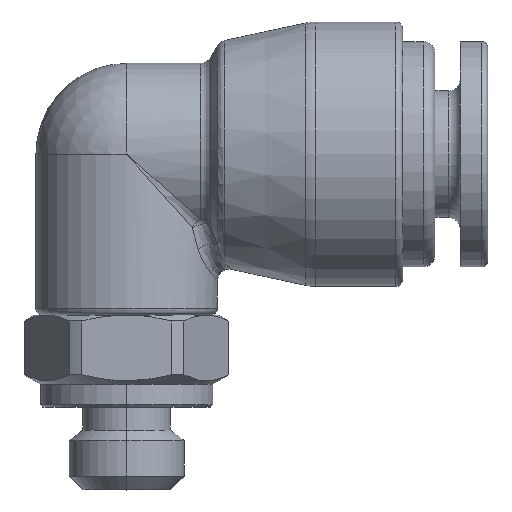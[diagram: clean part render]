
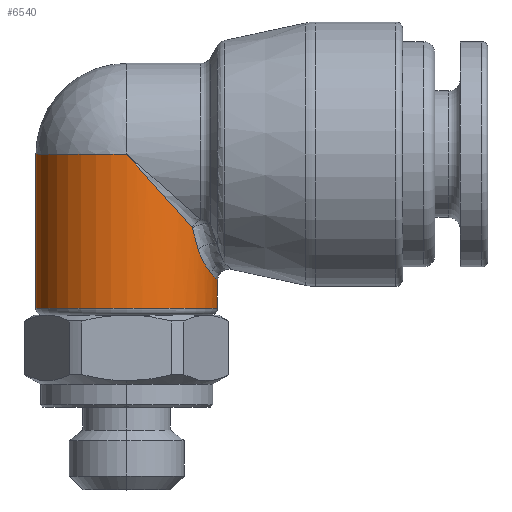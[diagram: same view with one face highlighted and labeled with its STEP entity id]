
A CAD part, top view. The second image highlights one B-rep face of the part: STEP entity #6540.
In plain terms, the highlighted cylindrical face has radius 3.95 mm (diameter 7.9 mm), a partial arc.
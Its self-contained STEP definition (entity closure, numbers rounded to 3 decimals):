
#8 = CIRCLE ( 'NONE', #5442, 3.95 ) ;
#83 = CARTESIAN_POINT ( 'NONE',  ( -3.95, 0., 0. ) ) ;
#93 = EDGE_CURVE ( 'NONE', #2738, #5914, #5784, .T. ) ;
#180 = CARTESIAN_POINT ( 'NONE',  ( 2.932, -3.524, 2.649 ) ) ;
#354 = EDGE_CURVE ( 'NONE', #6107, #2647, #833, .T. ) ;
#365 = DIRECTION ( 'NONE',  ( 0., 1., 0. ) ) ;
#457 = CARTESIAN_POINT ( 'NONE',  ( 3.944, -5.491, 0.244 ) ) ;
#539 = LINE ( 'NONE', #83, #2413 ) ;
#601 = CARTESIAN_POINT ( 'NONE',  ( 0., -6.7, 0. ) ) ;
#708 = VERTEX_POINT ( 'NONE', #6637 ) ;
#713 = EDGE_CURVE ( 'NONE', #3302, #708, #8, .T. ) ;
#766 = CARTESIAN_POINT ( 'NONE',  ( 3.111, -4.13, 2.434 ) ) ;
#833 = B_SPLINE_CURVE_WITH_KNOTS ( 'NONE', 3,
 ( #5615, #4020, #6586, #1419, #3454, #1345, #5542, #5026 ),
 .UNSPECIFIED., .F., .F.,
 ( 4, 2, 2, 4 ),
 ( 0.005, 0.005, 0.006, 0.006 ),
 .UNSPECIFIED. ) ;
#844 = ORIENTED_EDGE ( 'NONE', *, *, #354, .T. ) ;
#1018 = DIRECTION ( 'NONE',  ( 0., 1., 0. ) ) ;
#1028 = ORIENTED_EDGE ( 'NONE', *, *, #4705, .T. ) ;
#1035 = CARTESIAN_POINT ( 'NONE',  ( 3.922, -5.465, 0.488 ) ) ;
#1171 = VERTEX_POINT ( 'NONE', #6649 ) ;
#1345 = CARTESIAN_POINT ( 'NONE',  ( 3.192, -4.369, 2.329 ) ) ;
#1406 = FACE_OUTER_BOUND ( 'NONE', #4545, .T. ) ;
#1419 = CARTESIAN_POINT ( 'NONE',  ( 3.339, -4.685, 2.114 ) ) ;
#1572 = ORIENTED_EDGE ( 'NONE', *, *, #4978, .F. ) ;
#1642 = CARTESIAN_POINT ( 'NONE',  ( 2.095, -2.36, 3.522 ) ) ;
#1688 = ORIENTED_EDGE ( 'NONE', *, *, #4367, .T. ) ;
#1841 = CARTESIAN_POINT ( 'NONE',  ( 0., 0., 0. ) ) ;
#1860 =( BOUNDED_CURVE ( )  B_SPLINE_CURVE ( 3, ( #6433, #1642, #4795, #3774 ),
 .UNSPECIFIED., .F., .T. ) 
 B_SPLINE_CURVE_WITH_KNOTS ( ( 4, 4 ),
 ( 3.906, 4.712 ),
 .UNSPECIFIED. ) 
 CURVE ( )  GEOMETRIC_REPRESENTATION_ITEM ( )  RATIONAL_B_SPLINE_CURVE ( ( 1., 0.947, 0.947, 1. ) ) 
 REPRESENTATION_ITEM ( '' )  );
#2191 = DIRECTION ( 'NONE',  ( -1., 0., 0. ) ) ;
#2211 = CARTESIAN_POINT ( 'NONE',  ( -3.95, -6.7, 0. ) ) ;
#2413 = VECTOR ( 'NONE', #1018, 1000. ) ;
#2432 = ORIENTED_EDGE ( 'NONE', *, *, #3554, .T. ) ;
#2492 = CYLINDRICAL_SURFACE ( 'NONE', #5841, 3.95 ) ;
#2563 = CARTESIAN_POINT ( 'NONE',  ( 0., 0., 0. ) ) ;
#2647 = VERTEX_POINT ( 'NONE', #5194 ) ;
#2678 = CARTESIAN_POINT ( 'NONE',  ( 2.851, -3.211, 2.734 ) ) ;
#2738 = VERTEX_POINT ( 'NONE', #2211 ) ;
#2767 = ORIENTED_EDGE ( 'NONE', *, *, #4506, .T. ) ;
#2862 = CARTESIAN_POINT ( 'NONE',  ( 3.693, -5.201, 1.402 ) ) ;
#2914 = CARTESIAN_POINT ( 'NONE',  ( 0., 0., 3.95 ) ) ;
#3108 = CARTESIAN_POINT ( 'NONE',  ( 3.838, -5.369, 0.963 ) ) ;
#3133 = CARTESIAN_POINT ( 'NONE',  ( 3.905, -5.445, 0.61 ) ) ;
#3302 = VERTEX_POINT ( 'NONE', #2914 ) ;
#3435 = ORIENTED_EDGE ( 'NONE', *, *, #93, .T. ) ;
#3454 = CARTESIAN_POINT ( 'NONE',  ( 3.287, -4.584, 2.193 ) ) ;
#3554 = EDGE_CURVE ( 'NONE', #2647, #4155, #4771, .T. ) ;
#3774 = CARTESIAN_POINT ( 'NONE',  ( 0., 0., 3.95 ) ) ;
#3934 = CARTESIAN_POINT ( 'NONE',  ( 3.02, -3.83, 2.55 ) ) ;
#4020 = CARTESIAN_POINT ( 'NONE',  ( 3.604, -5.098, 1.637 ) ) ;
#4065 = CARTESIAN_POINT ( 'NONE',  ( 3.693, -5.201, 1.402 ) ) ;
#4101 = CARTESIAN_POINT ( 'NONE',  ( 3.95, -5.498, 0.122 ) ) ;
#4155 = VERTEX_POINT ( 'NONE', #2678 ) ;
#4367 = EDGE_CURVE ( 'NONE', #4155, #3302, #1860, .T. ) ;
#4482 = ORIENTED_EDGE ( 'NONE', *, *, #713, .T. ) ;
#4501 = DIRECTION ( 'NONE',  ( 0., 1., 0. ) ) ;
#4506 = EDGE_CURVE ( 'NONE', #1171, #6107, #6473, .T. ) ;
#4535 = LINE ( 'NONE', #5032, #5871 ) ;
#4545 = EDGE_LOOP ( 'NONE', ( #3435, #1028, #2767, #844, #2432, #1688, #4482, #1572 ) ) ;
#4602 = CARTESIAN_POINT ( 'NONE',  ( 3.95, -6.7, 0. ) ) ;
#4677 = DIRECTION ( 'NONE',  ( -1., 0., 0. ) ) ;
#4705 = EDGE_CURVE ( 'NONE', #5914, #1171, #4535, .T. ) ;
#4771 = B_SPLINE_CURVE_WITH_KNOTS ( 'NONE', 3,
 ( #766, #3934, #180, #6073 ),
 .UNSPECIFIED., .F., .F.,
 ( 4, 4 ),
 ( 0., 0.001 ),
 .UNSPECIFIED. ) ;
#4776 = AXIS2_PLACEMENT_3D ( 'NONE', #601, #6037, #2191 ) ;
#4795 = CARTESIAN_POINT ( 'NONE',  ( 1.091, -1.229, 3.95 ) ) ;
#4978 = EDGE_CURVE ( 'NONE', #2738, #708, #539, .T. ) ;
#5026 = CARTESIAN_POINT ( 'NONE',  ( 3.111, -4.13, 2.434 ) ) ;
#5032 = CARTESIAN_POINT ( 'NONE',  ( 3.95, 0., 0. ) ) ;
#5039 = DIRECTION ( 'NONE',  ( 0., -1., 0. ) ) ;
#5194 = CARTESIAN_POINT ( 'NONE',  ( 3.111, -4.13, 2.434 ) ) ;
#5239 = CARTESIAN_POINT ( 'NONE',  ( 3.774, -5.295, 1.188 ) ) ;
#5442 = AXIS2_PLACEMENT_3D ( 'NONE', #1841, #5039, #6600 ) ;
#5542 = CARTESIAN_POINT ( 'NONE',  ( 3.148, -4.254, 2.386 ) ) ;
#5615 = CARTESIAN_POINT ( 'NONE',  ( 3.693, -5.201, 1.402 ) ) ;
#5784 = CIRCLE ( 'NONE', #4776, 3.95 ) ;
#5841 = AXIS2_PLACEMENT_3D ( 'NONE', #2563, #365, #4677 ) ;
#5871 = VECTOR ( 'NONE', #4501, 1000. ) ;
#5914 = VERTEX_POINT ( 'NONE', #4602 ) ;
#6037 = DIRECTION ( 'NONE',  ( 0., 1., 0. ) ) ;
#6073 = CARTESIAN_POINT ( 'NONE',  ( 2.851, -3.211, 2.734 ) ) ;
#6107 = VERTEX_POINT ( 'NONE', #2862 ) ;
#6433 = CARTESIAN_POINT ( 'NONE',  ( 2.851, -3.211, 2.734 ) ) ;
#6473 = B_SPLINE_CURVE_WITH_KNOTS ( 'NONE', 3,
 ( #6674, #4101, #457, #1035, #3133, #3108, #5239, #4065 ),
 .UNSPECIFIED., .F., .F.,
 ( 4, 2, 2, 4 ),
 ( 0.001, 0.002, 0.002, 0.003 ),
 .UNSPECIFIED. ) ;
#6540 = ADVANCED_FACE ( 'NONE', ( #1406 ), #2492, .T. ) ;
#6586 = CARTESIAN_POINT ( 'NONE',  ( 3.496, -4.956, 1.851 ) ) ;
#6600 = DIRECTION ( 'NONE',  ( -1., 0., 0. ) ) ;
#6637 = CARTESIAN_POINT ( 'NONE',  ( -3.95, 0., 0. ) ) ;
#6649 = CARTESIAN_POINT ( 'NONE',  ( 3.95, -5.498, 0. ) ) ;
#6674 = CARTESIAN_POINT ( 'NONE',  ( 3.95, -5.498, 0. ) ) ;
